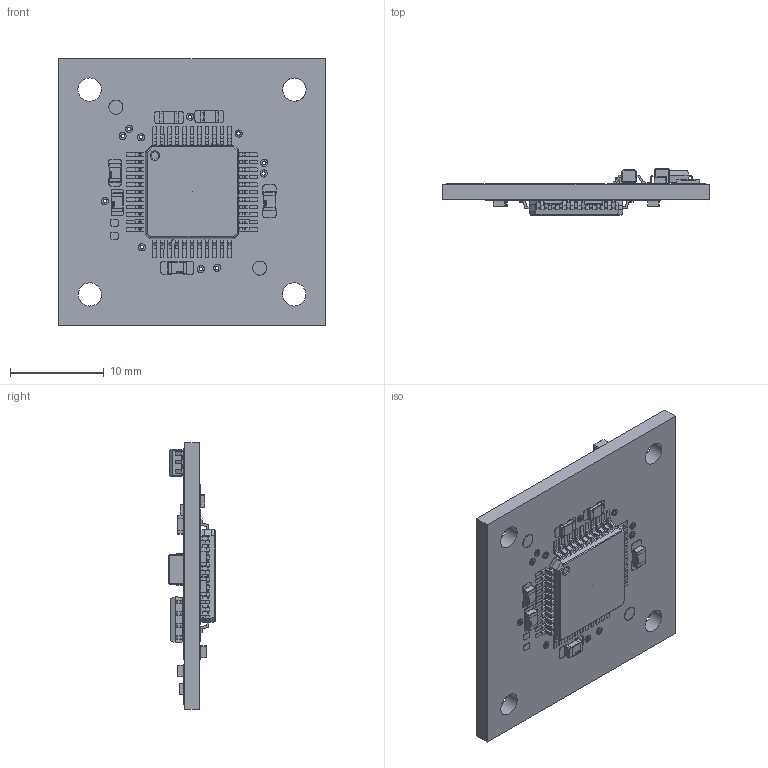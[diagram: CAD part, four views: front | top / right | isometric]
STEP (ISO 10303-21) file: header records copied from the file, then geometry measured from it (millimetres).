
FILE_DESCRIPTION (( 'STEP AP203' ), '1' );
FILE_NAME ('MODM239-3D.STEP', '2019-03-06T10:15:56', ( '' ), ( '' ), 'SwSTEP 2.0', 'SolidWorks 2016', '' );
FILE_SCHEMA (( 'CONFIG_CONTROL_DESIGN' ));
Products named in the file (1): MODM239-3D
Bounding box: 28.45 x 4.95 x 28.45 mm (x, y, z)
Volume: 1492.8 mm3; surface area: 2931.4 mm2
Topology: 221 solids, 221 shells, 3429 faces, 8416 edges, 5440 vertices
Faces by surface type: plane 1993, bspline 1174, cylinder 260, torus 2
Entity records: 139186 total; most frequent: CARTESIAN_POINT 70865, ORIENTED_EDGE 16736, DIRECTION 9061, EDGE_CURVE 8368, VERTEX_POINT 5440, B_SPLINE_CURVE_WITH_KNOTS 4153, LINE 3849, VECTOR 3849
